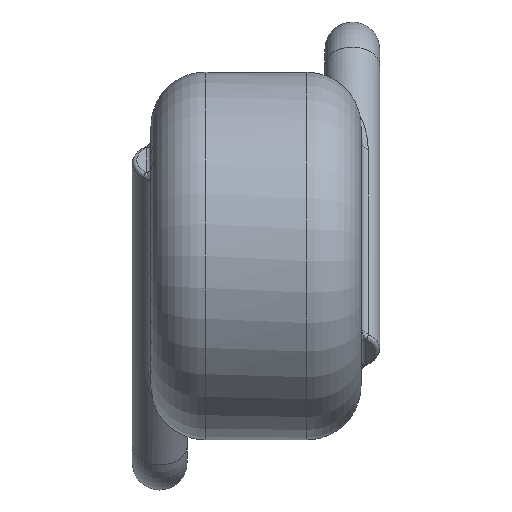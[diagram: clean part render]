
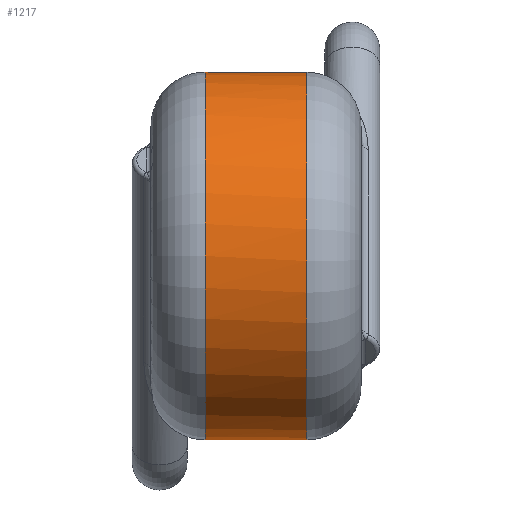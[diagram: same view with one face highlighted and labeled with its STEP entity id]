
A CAD part, left-side view. The second image highlights one B-rep face of the part: STEP entity #1217.
In plain terms, the highlighted cylindrical face has radius 8.5 mm (diameter 17 mm), a full revolution.
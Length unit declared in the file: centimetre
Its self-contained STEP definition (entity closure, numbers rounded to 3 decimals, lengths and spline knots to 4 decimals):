
#845=CARTESIAN_POINT('',(0.85,0.64,0.));
#846=VERTEX_POINT('',#845);
#847=CARTESIAN_POINT('',(0.0,0.64,0.0));
#848=DIRECTION('',(0.0,1.0,0.0));
#849=DIRECTION('',(-1.0,0.0,0.0));
#850=AXIS2_PLACEMENT_3D('',#847,#848,#849);
#851=CIRCLE('',#850,0.85);
#852=EDGE_CURVE('',#846,#846,#851,.T.);
#1130=CARTESIAN_POINT('',(0.85,0.169,0.));
#1131=VERTEX_POINT('',#1130);
#1132=CARTESIAN_POINT('',(0.0,0.169,0.0));
#1133=DIRECTION('',(0.0,-1.0,0.0));
#1134=DIRECTION('',(-1.0,0.0,0.0));
#1135=AXIS2_PLACEMENT_3D('',#1132,#1133,#1134);
#1136=CIRCLE('',#1135,0.85);
#1137=EDGE_CURVE('',#1131,#1131,#1136,.T.);
#1206=CARTESIAN_POINT('',(0.0,0.4045,0.0));
#1207=DIRECTION('',(0.0,1.0,0.0));
#1208=DIRECTION('',(-1.0,0.0,0.0));
#1209=AXIS2_PLACEMENT_3D('',#1206,#1207,#1208);
#1210=CYLINDRICAL_SURFACE('',#1209,0.85);
#1211=ORIENTED_EDGE('',*,*,#852,.F.);
#1212=EDGE_LOOP('',(#1211));
#1213=FACE_OUTER_BOUND('',#1212,.T.);
#1214=ORIENTED_EDGE('',*,*,#1137,.F.);
#1215=EDGE_LOOP('',(#1214));
#1216=FACE_BOUND('',#1215,.T.);
#1217=ADVANCED_FACE('',(#1213,#1216),#1210,.T.);
